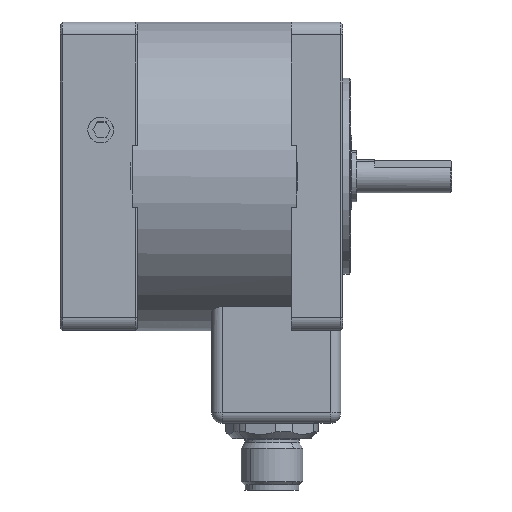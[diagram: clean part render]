
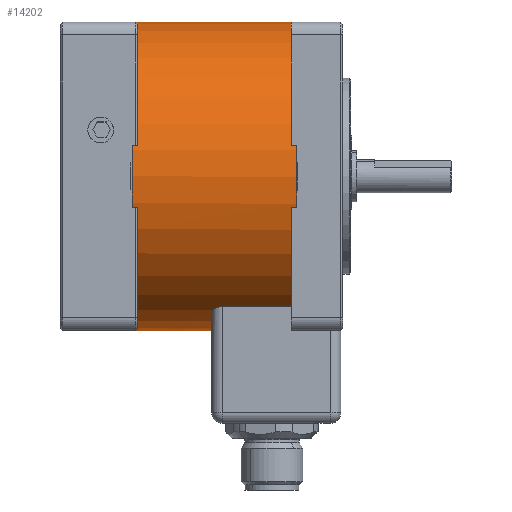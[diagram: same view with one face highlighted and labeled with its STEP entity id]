
A CAD part, left-side view. The second image highlights one B-rep face of the part: STEP entity #14202.
In plain terms, the highlighted cylindrical face has radius 30 mm (diameter 60 mm), a partial arc.
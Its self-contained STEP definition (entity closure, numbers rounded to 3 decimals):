
#4064 = VECTOR ( 'NONE', #36124, 1000. ) ;
#4231 = EDGE_CURVE ( 'NONE', #15577, #15405, #23458, .T. ) ;
#7287 = CARTESIAN_POINT ( 'NONE',  ( -207.445, -66.842, 182.927 ) ) ;
#7637 = CARTESIAN_POINT ( 'NONE',  ( -206.472, -66.681, 182.901 ) ) ;
#8355 = CARTESIAN_POINT ( 'NONE',  ( -209.448, -67.912, 183.082 ) ) ;
#8566 = DIRECTION ( 'NONE',  ( 0., 0., 1. ) ) ;
#8702 = CARTESIAN_POINT ( 'NONE',  ( -208.211, -67.125, 182.971 ) ) ;
#8737 = DIRECTION ( 'NONE',  ( 0., -1., 0. ) ) ;
#9794 = VERTEX_POINT ( 'NONE', #52530 ) ;
#12734 = AXIS2_PLACEMENT_3D ( 'NONE', #48347, #64310, #37726 ) ;
#12939 = EDGE_CURVE ( 'NONE', #9794, #63881, #24374, .T. ) ;
#12999 = CARTESIAN_POINT ( 'NONE',  ( -210.889, -70.066, 183.278 ) ) ;
#13256 = EDGE_CURVE ( 'NONE', #15405, #60322, #20726, .T. ) ;
#14060 = CARTESIAN_POINT ( 'NONE',  ( -211.146, -71.681, 183.32 ) ) ;
#14202 = ADVANCED_FACE ( 'NONE', ( #40440 ), #28757, .T. ) ;
#14866 = CARTESIAN_POINT ( 'NONE',  ( -206.146, -49.181, 212.901 ) ) ;
#15208 = DIRECTION ( 'NONE',  ( 0., -1., 0. ) ) ;
#15405 = VERTEX_POINT ( 'NONE', #15615 ) ;
#15577 = VERTEX_POINT ( 'NONE', #27171 ) ;
#15615 = CARTESIAN_POINT ( 'NONE',  ( -211.146, -81.681, 183.32 ) ) ;
#18375 = CARTESIAN_POINT ( 'NONE',  ( -211.113, -71.019, 183.315 ) ) ;
#19087 = CARTESIAN_POINT ( 'NONE',  ( -210.638, -69.462, 183.239 ) ) ;
#19854 = CARTESIAN_POINT ( 'NONE',  ( -206.146, -49.181, 242.901 ) ) ;
#20726 = CIRCLE ( 'NONE', #12734, 30. ) ;
#23458 = LINE ( 'NONE', #52759, #46895 ) ;
#24032 = DIRECTION ( 'NONE',  ( 0., -1., 0. ) ) ;
#24098 = LINE ( 'NONE', #19854, #4064 ) ;
#24374 = LINE ( 'NONE', #30020, #39886 ) ;
#24674 = AXIS2_PLACEMENT_3D ( 'NONE', #36617, #63577, #8566 ) ;
#24727 = CARTESIAN_POINT ( 'NONE',  ( -211.146, -71.35, 183.32 ) ) ;
#27171 = CARTESIAN_POINT ( 'NONE',  ( -211.146, -71.681, 183.32 ) ) ;
#28757 = CYLINDRICAL_SURFACE ( 'NONE', #40171, 30. ) ;
#29000 = CARTESIAN_POINT ( 'NONE',  ( -210.12, -68.629, 183.164 ) ) ;
#29693 = CARTESIAN_POINT ( 'NONE',  ( -208.65, -67.35, 183.005 ) ) ;
#30020 = CARTESIAN_POINT ( 'NONE',  ( -206.146, -49.181, 182.901 ) ) ;
#34248 = ORIENTED_EDGE ( 'NONE', *, *, #54418, .F. ) ;
#34557 = CARTESIAN_POINT ( 'NONE',  ( -206.146, -81.681, 242.901 ) ) ;
#34838 = CARTESIAN_POINT ( 'NONE',  ( -206.146, -66.681, 182.901 ) ) ;
#35360 = CARTESIAN_POINT ( 'NONE',  ( -206.146, -66.681, 182.901 ) ) ;
#36124 = DIRECTION ( 'NONE',  ( 0., -1., 0. ) ) ;
#36617 = CARTESIAN_POINT ( 'NONE',  ( -206.146, -49.181, 212.901 ) ) ;
#37726 = DIRECTION ( 'NONE',  ( 0., 0., 1. ) ) ;
#39665 = ORIENTED_EDGE ( 'NONE', *, *, #13256, .T. ) ;
#39886 = VECTOR ( 'NONE', #24032, 1000. ) ;
#40067 = EDGE_CURVE ( 'NONE', #50933, #60322, #24098, .T. ) ;
#40171 = AXIS2_PLACEMENT_3D ( 'NONE', #14866, #15208, #42912 ) ;
#40440 = FACE_OUTER_BOUND ( 'NONE', #64452, .T. ) ;
#40690 = CARTESIAN_POINT ( 'NONE',  ( -210.984, -70.378, 183.293 ) ) ;
#42912 = DIRECTION ( 'NONE',  ( 0., 0., -1. ) ) ;
#45678 = CARTESIAN_POINT ( 'NONE',  ( -206.804, -66.714, 182.906 ) ) ;
#46895 = VECTOR ( 'NONE', #8737, 1000. ) ;
#47177 = ORIENTED_EDGE ( 'NONE', *, *, #40067, .F. ) ;
#48347 = CARTESIAN_POINT ( 'NONE',  ( -206.146, -81.681, 212.901 ) ) ;
#50626 = CARTESIAN_POINT ( 'NONE',  ( -210.482, -69.17, 183.215 ) ) ;
#50659 = ORIENTED_EDGE ( 'NONE', *, *, #12939, .T. ) ;
#50933 = VERTEX_POINT ( 'NONE', #53085 ) ;
#50994 = CARTESIAN_POINT ( 'NONE',  ( -208.79, -67.434, 183.017 ) ) ;
#51689 = CARTESIAN_POINT ( 'NONE',  ( -209.913, -68.377, 183.137 ) ) ;
#52228 = EDGE_CURVE ( 'NONE', #63881, #15577, #69887, .T. ) ;
#52530 = CARTESIAN_POINT ( 'NONE',  ( -206.146, -49.181, 182.901 ) ) ;
#52759 = CARTESIAN_POINT ( 'NONE',  ( -211.146, -49.181, 183.32 ) ) ;
#53085 = CARTESIAN_POINT ( 'NONE',  ( -206.146, -49.181, 242.901 ) ) ;
#54418 = EDGE_CURVE ( 'NONE', #9794, #50933, #55198, .T. ) ;
#54800 = ORIENTED_EDGE ( 'NONE', *, *, #52228, .T. ) ;
#55198 = CIRCLE ( 'NONE', #24674, 30. ) ;
#55738 = ORIENTED_EDGE ( 'NONE', *, *, #4231, .T. ) ;
#56958 = CARTESIAN_POINT ( 'NONE',  ( -209.195, -67.705, 183.055 ) ) ;
#57316 = CARTESIAN_POINT ( 'NONE',  ( -207.757, -66.936, 182.942 ) ) ;
#60322 = VERTEX_POINT ( 'NONE', #34557 ) ;
#61599 = CARTESIAN_POINT ( 'NONE',  ( -208.361, -67.196, 182.982 ) ) ;
#63577 = DIRECTION ( 'NONE',  ( 0., 1., 0. ) ) ;
#63881 = VERTEX_POINT ( 'NONE', #34838 ) ;
#64310 = DIRECTION ( 'NONE',  ( 0., 1., 0. ) ) ;
#64452 = EDGE_LOOP ( 'NONE', ( #47177, #34248, #50659, #54800, #55738, #39665 ) ) ;
#69887 = B_SPLINE_CURVE_WITH_KNOTS ( 'NONE', 3,
 ( #35360, #7637, #45678, #7287, #57316, #8702, #61599, #29693, #50994, #56958, #8355, #51689, #29000, #50626, #19087, #12999, #40690, #18375, #24727, #14060 ),
 .UNSPECIFIED., .F., .F.,
 ( 4, 2, 2, 2, 2, 2, 2, 2, 2, 4 ),
 ( 0.008, 0.009, 0.01, 0.01, 0.011, 0.012, 0.013, 0.014, 0.015, 0.016 ),
 .UNSPECIFIED. ) ;
